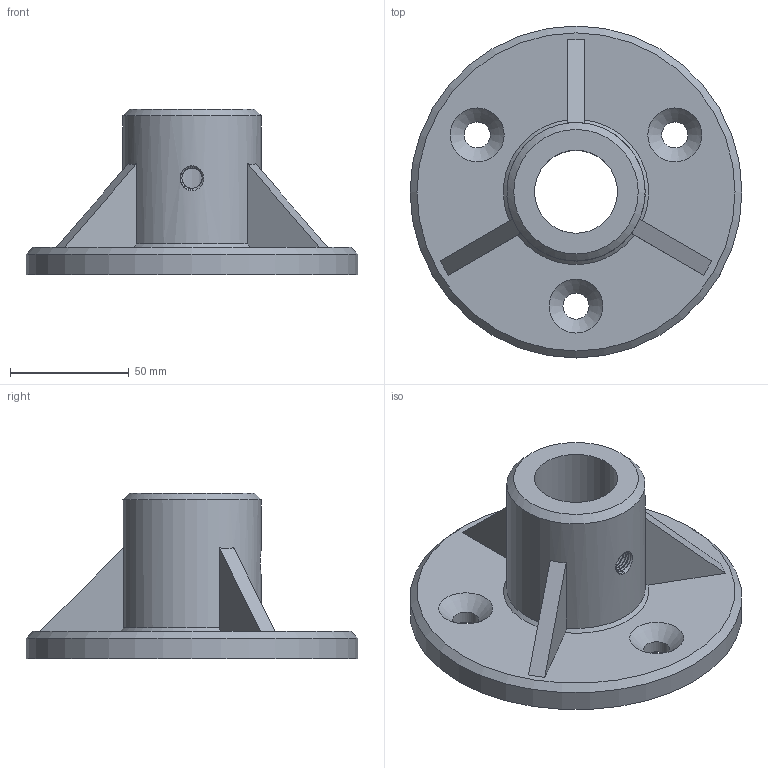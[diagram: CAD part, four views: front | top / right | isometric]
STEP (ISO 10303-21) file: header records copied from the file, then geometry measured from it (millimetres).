
FILE_DESCRIPTION(/* description */ (''),/* implementation_level */ '2;1');
FILE_NAME(/* name */ '35MM_M10.stp',/* time_stamp */ '2024-11-18T16:29:39+01:00',/* author */ (''),/* organization */ (''),/* preprocessor_version */ 'ST-DEVELOPER v20',/* originating_system */ 'SIEMENS PLM Software NX2406.4001',/* authorisation */ '');
FILE_SCHEMA (('AUTOMOTIVE_DESIGN { 1 0 10303 214 3 1 1 1 }'));
Length unit declared in the file: millimetre
Products named in the file (1): 35MM_M10
Bounding box: 140 x 140 x 70 mm (x, y, z)
Volume: 272062.7 mm3; surface area: 55189.8 mm2
Topology: 1 solids, 1 shells, 37 faces, 94 edges, 60 vertices
Faces by surface type: plane 14, cone 13, cylinder 8, bspline 2
Full cylindrical faces by diameter (mm): 11 x3, 35 x1, 58.333 x1, 140 x1
Entity records: 2609 total; most frequent: CARTESIAN_POINT 1765, DIRECTION 162, ORIENTED_EDGE 152, EDGE_CURVE 76, AXIS2_PLACEMENT_3D 69, EDGE_LOOP 63, VERTEX_POINT 57, FACE_BOUND 44
